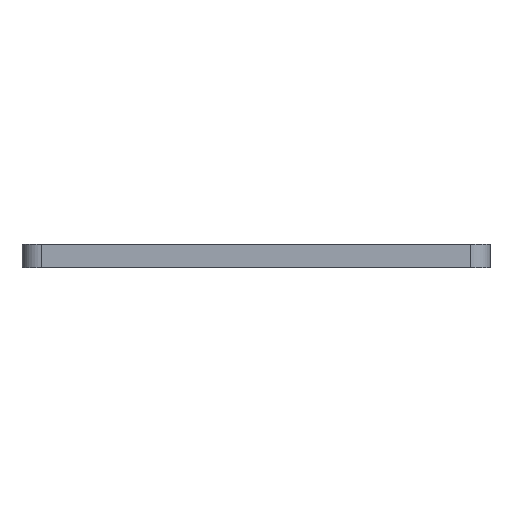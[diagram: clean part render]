
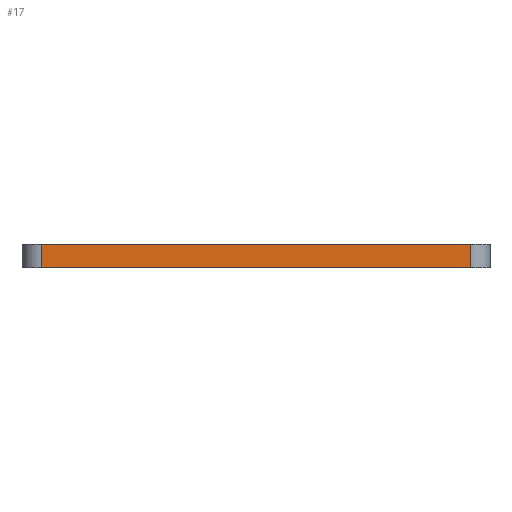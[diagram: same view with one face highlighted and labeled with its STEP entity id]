
A CAD part, front view. The second image highlights one B-rep face of the part: STEP entity #17.
In plain terms, the highlighted planar face has unit normal (0, -1, 0).
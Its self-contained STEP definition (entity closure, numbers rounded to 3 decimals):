
#17 = ADVANCED_FACE('',(#18),#32,.F.);
#18 = FACE_BOUND('',#19,.F.);
#19 = EDGE_LOOP('',(#20,#55,#83,#111));
#20 = ORIENTED_EDGE('',*,*,#21,.F.);
#21 = EDGE_CURVE('',#22,#24,#26,.T.);
#22 = VERTEX_POINT('',#23);
#23 = CARTESIAN_POINT('',(-55.,-35.,0.));
#24 = VERTEX_POINT('',#25);
#25 = CARTESIAN_POINT('',(55.,-35.,0.));
#26 = SURFACE_CURVE('',#27,(#31,#43),.PCURVE_S1.);
#27 = LINE('',#28,#29);
#28 = CARTESIAN_POINT('',(-60.,-35.,0.));
#29 = VECTOR('',#30,1.);
#30 = DIRECTION('',(1.,0.,0.));
#31 = PCURVE('',#32,#37);
#32 = PLANE('',#33);
#33 = AXIS2_PLACEMENT_3D('',#34,#35,#36);
#34 = CARTESIAN_POINT('',(-60.,-35.,0.));
#35 = DIRECTION('',(0.,1.,0.));
#36 = DIRECTION('',(1.,0.,0.));
#37 = DEFINITIONAL_REPRESENTATION('',(#38),#42);
#38 = LINE('',#39,#40);
#39 = CARTESIAN_POINT('',(0.,0.));
#40 = VECTOR('',#41,1.);
#41 = DIRECTION('',(1.,0.));
#42 = ( GEOMETRIC_REPRESENTATION_CONTEXT(2) 
PARAMETRIC_REPRESENTATION_CONTEXT() REPRESENTATION_CONTEXT('2D SPACE',''
  ) );
#43 = PCURVE('',#44,#49);
#44 = PLANE('',#45);
#45 = AXIS2_PLACEMENT_3D('',#46,#47,#48);
#46 = CARTESIAN_POINT('',(0.,57.5,0.));
#47 = DIRECTION('',(0.,0.,1.));
#48 = DIRECTION('',(1.,0.,-0.));
#49 = DEFINITIONAL_REPRESENTATION('',(#50),#54);
#50 = LINE('',#51,#52);
#51 = CARTESIAN_POINT('',(-60.,-92.5));
#52 = VECTOR('',#53,1.);
#53 = DIRECTION('',(1.,0.));
#54 = ( GEOMETRIC_REPRESENTATION_CONTEXT(2) 
PARAMETRIC_REPRESENTATION_CONTEXT() REPRESENTATION_CONTEXT('2D SPACE',''
  ) );
#55 = ORIENTED_EDGE('',*,*,#56,.T.);
#56 = EDGE_CURVE('',#22,#57,#59,.T.);
#57 = VERTEX_POINT('',#58);
#58 = CARTESIAN_POINT('',(-55.,-35.,6.));
#59 = SURFACE_CURVE('',#60,(#64,#71),.PCURVE_S1.);
#60 = LINE('',#61,#62);
#61 = CARTESIAN_POINT('',(-55.,-35.,0.));
#62 = VECTOR('',#63,1.);
#63 = DIRECTION('',(0.,0.,1.));
#64 = PCURVE('',#32,#65);
#65 = DEFINITIONAL_REPRESENTATION('',(#66),#70);
#66 = LINE('',#67,#68);
#67 = CARTESIAN_POINT('',(5.,0.));
#68 = VECTOR('',#69,1.);
#69 = DIRECTION('',(0.,-1.));
#70 = ( GEOMETRIC_REPRESENTATION_CONTEXT(2) 
PARAMETRIC_REPRESENTATION_CONTEXT() REPRESENTATION_CONTEXT('2D SPACE',''
  ) );
#71 = PCURVE('',#72,#77);
#72 = CYLINDRICAL_SURFACE('',#73,5.);
#73 = AXIS2_PLACEMENT_3D('',#74,#75,#76);
#74 = CARTESIAN_POINT('',(-55.,-30.,0.));
#75 = DIRECTION('',(0.,0.,1.));
#76 = DIRECTION('',(0.,-1.,0.));
#77 = DEFINITIONAL_REPRESENTATION('',(#78),#82);
#78 = LINE('',#79,#80);
#79 = CARTESIAN_POINT('',(-0.,0.));
#80 = VECTOR('',#81,1.);
#81 = DIRECTION('',(-0.,1.));
#82 = ( GEOMETRIC_REPRESENTATION_CONTEXT(2) 
PARAMETRIC_REPRESENTATION_CONTEXT() REPRESENTATION_CONTEXT('2D SPACE',''
  ) );
#83 = ORIENTED_EDGE('',*,*,#84,.T.);
#84 = EDGE_CURVE('',#57,#85,#87,.T.);
#85 = VERTEX_POINT('',#86);
#86 = CARTESIAN_POINT('',(55.,-35.,6.));
#87 = SURFACE_CURVE('',#88,(#92,#99),.PCURVE_S1.);
#88 = LINE('',#89,#90);
#89 = CARTESIAN_POINT('',(-60.,-35.,6.));
#90 = VECTOR('',#91,1.);
#91 = DIRECTION('',(1.,0.,0.));
#92 = PCURVE('',#32,#93);
#93 = DEFINITIONAL_REPRESENTATION('',(#94),#98);
#94 = LINE('',#95,#96);
#95 = CARTESIAN_POINT('',(0.,-6.));
#96 = VECTOR('',#97,1.);
#97 = DIRECTION('',(1.,0.));
#98 = ( GEOMETRIC_REPRESENTATION_CONTEXT(2) 
PARAMETRIC_REPRESENTATION_CONTEXT() REPRESENTATION_CONTEXT('2D SPACE',''
  ) );
#99 = PCURVE('',#100,#105);
#100 = PLANE('',#101);
#101 = AXIS2_PLACEMENT_3D('',#102,#103,#104);
#102 = CARTESIAN_POINT('',(0.,57.5,6.));
#103 = DIRECTION('',(0.,0.,1.));
#104 = DIRECTION('',(1.,0.,-0.));
#105 = DEFINITIONAL_REPRESENTATION('',(#106),#110);
#106 = LINE('',#107,#108);
#107 = CARTESIAN_POINT('',(-60.,-92.5));
#108 = VECTOR('',#109,1.);
#109 = DIRECTION('',(1.,0.));
#110 = ( GEOMETRIC_REPRESENTATION_CONTEXT(2) 
PARAMETRIC_REPRESENTATION_CONTEXT() REPRESENTATION_CONTEXT('2D SPACE',''
  ) );
#111 = ORIENTED_EDGE('',*,*,#112,.F.);
#112 = EDGE_CURVE('',#24,#85,#113,.T.);
#113 = SURFACE_CURVE('',#114,(#118,#125),.PCURVE_S1.);
#114 = LINE('',#115,#116);
#115 = CARTESIAN_POINT('',(55.,-35.,0.));
#116 = VECTOR('',#117,1.);
#117 = DIRECTION('',(0.,0.,1.));
#118 = PCURVE('',#32,#119);
#119 = DEFINITIONAL_REPRESENTATION('',(#120),#124);
#120 = LINE('',#121,#122);
#121 = CARTESIAN_POINT('',(115.,0.));
#122 = VECTOR('',#123,1.);
#123 = DIRECTION('',(0.,-1.));
#124 = ( GEOMETRIC_REPRESENTATION_CONTEXT(2) 
PARAMETRIC_REPRESENTATION_CONTEXT() REPRESENTATION_CONTEXT('2D SPACE',''
  ) );
#125 = PCURVE('',#126,#131);
#126 = CYLINDRICAL_SURFACE('',#127,5.);
#127 = AXIS2_PLACEMENT_3D('',#128,#129,#130);
#128 = CARTESIAN_POINT('',(55.,-30.,0.));
#129 = DIRECTION('',(0.,0.,1.));
#130 = DIRECTION('',(0.,-1.,0.));
#131 = DEFINITIONAL_REPRESENTATION('',(#132),#136);
#132 = LINE('',#133,#134);
#133 = CARTESIAN_POINT('',(0.,0.));
#134 = VECTOR('',#135,1.);
#135 = DIRECTION('',(0.,1.));
#136 = ( GEOMETRIC_REPRESENTATION_CONTEXT(2) 
PARAMETRIC_REPRESENTATION_CONTEXT() REPRESENTATION_CONTEXT('2D SPACE',''
  ) );
